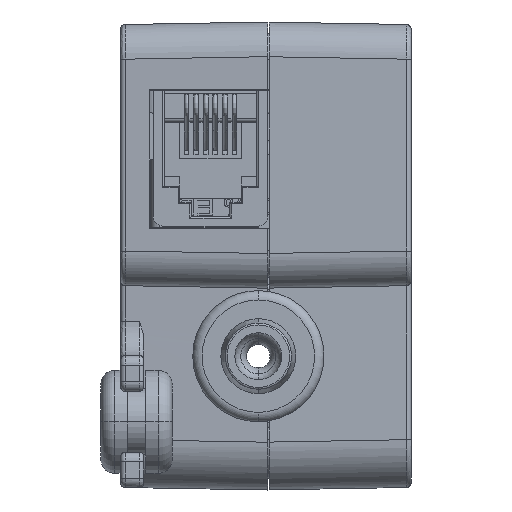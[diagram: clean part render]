
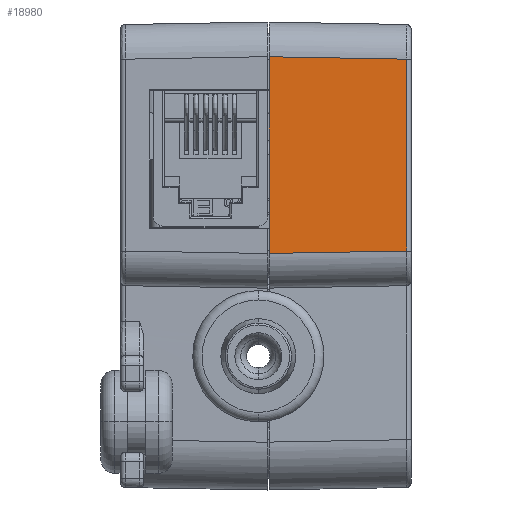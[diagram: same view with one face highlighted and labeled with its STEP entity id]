
A CAD part, left-side view. The second image highlights one B-rep face of the part: STEP entity #18980.
In plain terms, the highlighted planar face has unit normal (-1, -0.018, 0) as drawn and (1, 0.017, 0) by its records, which use the part's own axes.
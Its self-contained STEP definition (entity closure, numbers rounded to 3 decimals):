
#18590=CARTESIAN_POINT('',(122.264,80.125,0.));
#18600=DIRECTION('',(1.,0.017,0.));
#18610=DIRECTION('',(0.017,-1.,0.));
#18620=AXIS2_PLACEMENT_3D('',#18590,#18600,#18610);
#18630=PLANE('',#18620);
#18640=CARTESIAN_POINT('',(122.529,64.975,0.));
#18650=DIRECTION('',(0.,0.,1.));
#18660=VECTOR('',#18650,1.);
#18670=LINE('',#18640,#18660);
#18680=CARTESIAN_POINT('',(122.529,64.975,3.96));
#18690=VERTEX_POINT('',#18680);
#18700=CARTESIAN_POINT('',(122.529,64.975,24.94));
#18710=VERTEX_POINT('',#18700);
#18720=EDGE_CURVE('',#18690,#18710,#18670,.T.);
#18730=ORIENTED_EDGE('',*,*,#18720,.F.);
#18740=CARTESIAN_POINT('',(123.662,0.065,
26.073));
#18750=DIRECTION('',(0.017,-1.,
0.017));
#18760=VECTOR('',#18750,1.);
#18770=LINE('',#18740,#18760);
#18780=CARTESIAN_POINT('',(122.273,79.634,
24.684));
#18790=VERTEX_POINT('',#18780);
#18800=EDGE_CURVE('',#18790,#18710,#18770,.T.);
#18810=ORIENTED_EDGE('',*,*,#18800,.T.);
#18820=CARTESIAN_POINT('',(122.273,79.634,0.));
#18830=DIRECTION('',(0.,0.,-1.));
#18840=VECTOR('',#18830,1.);
#18850=LINE('',#18820,#18840);
#18860=CARTESIAN_POINT('',(122.273,79.634,
4.216));
#18870=VERTEX_POINT('',#18860);
#18880=EDGE_CURVE('',#18790,#18870,#18850,.T.);
#18890=ORIENTED_EDGE('',*,*,#18880,.F.);
#18900=CARTESIAN_POINT('',(123.662,0.065,
2.827));
#18910=DIRECTION('',(0.017,-1.,
-0.017));
#18920=VECTOR('',#18910,1.);
#18930=LINE('',#18900,#18920);
#18940=EDGE_CURVE('',#18870,#18690,#18930,.T.);
#18950=ORIENTED_EDGE('',*,*,#18940,.F.);
#18960=EDGE_LOOP('',(#18950,#18890,#18810,#18730));
#18970=FACE_OUTER_BOUND('',#18960,.T.);
#18980=ADVANCED_FACE('',(#18970),#18630,.T.);
